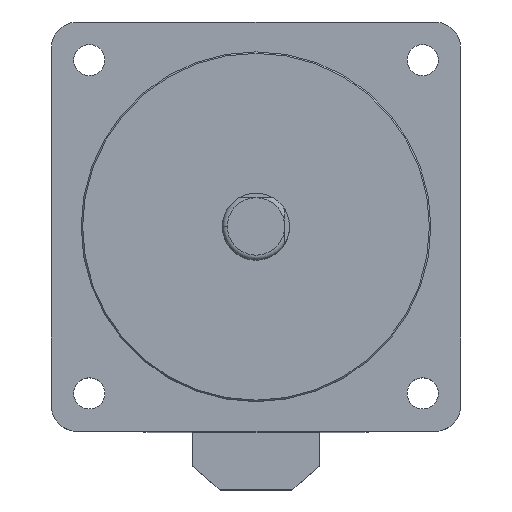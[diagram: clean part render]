
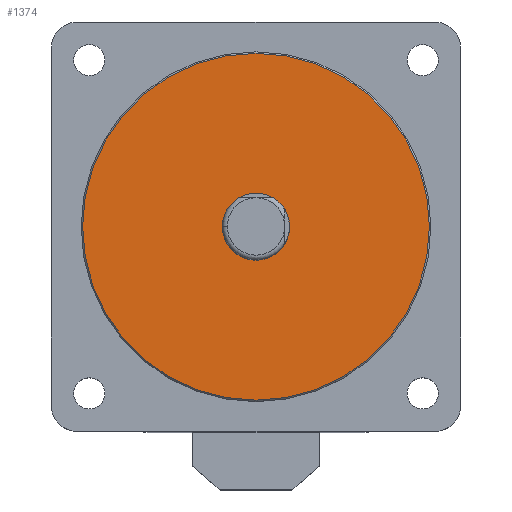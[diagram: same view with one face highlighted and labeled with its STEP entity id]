
A CAD part, top view. The second image highlights one B-rep face of the part: STEP entity #1374.
In plain terms, the highlighted planar face has unit normal (0, 0, 1).
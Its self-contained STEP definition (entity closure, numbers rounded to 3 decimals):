
#97 = AXIS2_PLACEMENT_3D ( 'NONE', #707, #479, #234 ) ;
#152 = ORIENTED_EDGE ( 'NONE', *, *, #2247, .T. ) ;
#192 = CARTESIAN_POINT ( 'NONE',  ( -7., 0., 0. ) ) ;
#234 = DIRECTION ( 'NONE',  ( -1., 0., 0. ) ) ;
#266 = CIRCLE ( 'NONE', #97, 36.212 ) ;
#272 = AXIS2_PLACEMENT_3D ( 'NONE', #1276, #1050, #804 ) ;
#281 = VERTEX_POINT ( 'NONE', #1214 ) ;
#285 = FACE_BOUND ( 'NONE', #1267, .T. ) ;
#301 = FACE_OUTER_BOUND ( 'NONE', #1133, .T. ) ;
#373 = DIRECTION ( 'NONE',  ( -1., 0., 0. ) ) ;
#379 = CARTESIAN_POINT ( 'NONE',  ( 0., 0., 0. ) ) ;
#479 = DIRECTION ( 'NONE',  ( 0., 0., 1. ) ) ;
#563 = VERTEX_POINT ( 'NONE', #192 ) ;
#613 = DIRECTION ( 'NONE',  ( 0., 0., -1. ) ) ;
#658 = ORIENTED_EDGE ( 'NONE', *, *, #2078, .T. ) ;
#707 = CARTESIAN_POINT ( 'NONE',  ( 0., 0., 0. ) ) ;
#742 = AXIS2_PLACEMENT_3D ( 'NONE', #379, #2002, #1757 ) ;
#804 = DIRECTION ( 'NONE',  ( -1., 0., 0. ) ) ;
#808 = CIRCLE ( 'NONE', #1732, 7. ) ;
#818 = AXIS2_PLACEMENT_3D ( 'NONE', #2204, #1473, #1239 ) ;
#859 = CARTESIAN_POINT ( 'NONE',  ( 0., 0., 0. ) ) ;
#1010 = EDGE_CURVE ( 'NONE', #1069, #563, #1323, .T. ) ;
#1050 = DIRECTION ( 'NONE',  ( 0., 0., -1. ) ) ;
#1069 = VERTEX_POINT ( 'NONE', #1701 ) ;
#1133 = EDGE_LOOP ( 'NONE', ( #658, #2036 ) ) ;
#1181 = ORIENTED_EDGE ( 'NONE', *, *, #1010, .T. ) ;
#1214 = CARTESIAN_POINT ( 'NONE',  ( 36.212, 0., 0. ) ) ;
#1239 = DIRECTION ( 'NONE',  ( -1., 0., 0. ) ) ;
#1267 = EDGE_LOOP ( 'NONE', ( #152, #1181 ) ) ;
#1276 = CARTESIAN_POINT ( 'NONE',  ( 0., 0., 0. ) ) ;
#1323 = CIRCLE ( 'NONE', #742, 7. ) ;
#1344 = CIRCLE ( 'NONE', #818, 36.212 ) ;
#1374 = ADVANCED_FACE ( 'NONE', ( #301, #285 ), #2249, .F. ) ;
#1473 = DIRECTION ( 'NONE',  ( 0., 0., 1. ) ) ;
#1552 = CARTESIAN_POINT ( 'NONE',  ( -36.212, 0., 0. ) ) ;
#1701 = CARTESIAN_POINT ( 'NONE',  ( 7., 0., 0. ) ) ;
#1732 = AXIS2_PLACEMENT_3D ( 'NONE', #859, #613, #373 ) ;
#1757 = DIRECTION ( 'NONE',  ( -1., 0., 0. ) ) ;
#1986 = EDGE_CURVE ( 'NONE', #281, #2153, #1344, .T. ) ;
#2002 = DIRECTION ( 'NONE',  ( 0., 0., -1. ) ) ;
#2036 = ORIENTED_EDGE ( 'NONE', *, *, #1986, .T. ) ;
#2078 = EDGE_CURVE ( 'NONE', #2153, #281, #266, .T. ) ;
#2153 = VERTEX_POINT ( 'NONE', #1552 ) ;
#2204 = CARTESIAN_POINT ( 'NONE',  ( 0., 0., 0. ) ) ;
#2247 = EDGE_CURVE ( 'NONE', #563, #1069, #808, .T. ) ;
#2249 = PLANE ( 'NONE',  #272 ) ;
